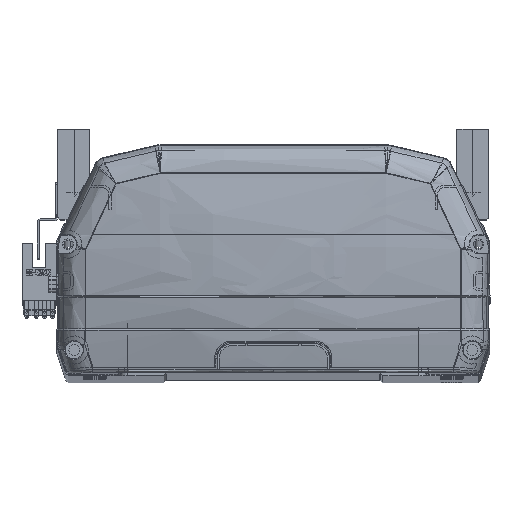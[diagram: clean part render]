
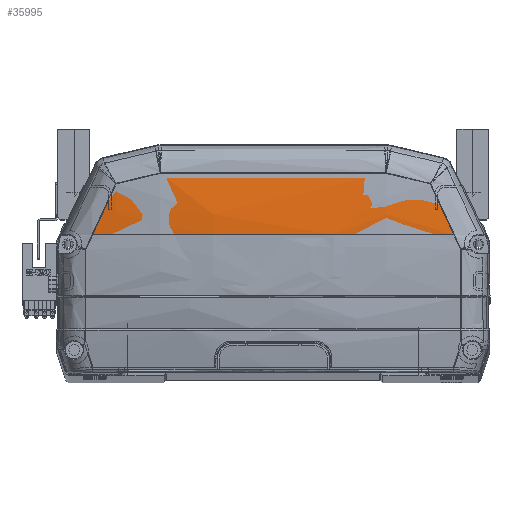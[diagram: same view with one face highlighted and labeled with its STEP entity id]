
A CAD part, top view. The second image highlights one B-rep face of the part: STEP entity #35995.
In plain terms, the highlighted toroidal (fillet/blend) face has major radius 312.5 mm and minor radius 572.4 mm.
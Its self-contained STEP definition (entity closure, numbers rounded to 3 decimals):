
#574 = CARTESIAN_POINT ( 'NONE',  ( -44.331, 79.443, -2.97 ) ) ;
#784 = EDGE_CURVE ( 'NONE', #12929, #7118, #37012, .T. ) ;
#1103 = VERTEX_POINT ( 'NONE', #35573 ) ;
#1654 = EDGE_LOOP ( 'NONE', ( #38720, #20469, #31573, #13147, #24003, #30312 ) ) ;
#5934 = CARTESIAN_POINT ( 'NONE',  ( 44.331, 79.443, -2.97 ) ) ;
#6027 = CARTESIAN_POINT ( 'NONE',  ( -61.718, 75.278, -4.232 ) ) ;
#6447 = FACE_OUTER_BOUND ( 'NONE', #1654, .T. ) ;
#7056 = EDGE_CURVE ( 'NONE', #1103, #14195, #20808, .T. ) ;
#7118 = VERTEX_POINT ( 'NONE', #5934 ) ;
#8437 = EDGE_CURVE ( 'NONE', #1103, #20851, #43055, .T. ) ;
#9397 = EDGE_CURVE ( 'NONE', #20851, #12929, #42483, .T. ) ;
#10506 = CARTESIAN_POINT ( 'NONE',  ( -14.788, 79.361, -1.235 ) ) ;
#11692 = B_SPLINE_CURVE_WITH_KNOTS ( 'NONE', 3,
 ( #15659, #19439, #42289, #29141 ),
 .UNSPECIFIED., .F., .F.,
 ( 4, 4 ),
 ( 0., 0.022 ),
 .UNSPECIFIED. ) ;
#12156 = CARTESIAN_POINT ( 'NONE',  ( -63.264, 71.911, -4.135 ) ) ;
#12830 = CARTESIAN_POINT ( 'NONE',  ( 61.718, 75.278, -4.232 ) ) ;
#12929 = VERTEX_POINT ( 'NONE', #574 ) ;
#13147 = ORIENTED_EDGE ( 'NONE', *, *, #30550, .F. ) ;
#14195 = VERTEX_POINT ( 'NONE', #25730 ) ;
#14794 = TOROIDAL_SURFACE ( 'NONE', #39555, -312.5, 572.4 ) ;
#15659 = CARTESIAN_POINT ( 'NONE',  ( 61.718, 75.278, -4.232 ) ) ;
#15672 = CARTESIAN_POINT ( 'NONE',  ( -61.718, 75.278, -4.232 ) ) ;
#15683 = EDGE_CURVE ( 'NONE', #30308, #14195, #11692, .T. ) ;
#16335 = CARTESIAN_POINT ( 'NONE',  ( 55.929, 76.66, -3.711 ) ) ;
#17254 = CARTESIAN_POINT ( 'NONE',  ( -50.132, 78.049, -3.29 ) ) ;
#18509 = DIRECTION ( 'NONE',  ( 0., 0., -1. ) ) ;
#18762 = DIRECTION ( 'NONE',  ( 0., 1., 0. ) ) ;
#19439 = CARTESIAN_POINT ( 'NONE',  ( 64.811, 68.545, -4.037 ) ) ;
#20469 = ORIENTED_EDGE ( 'NONE', *, *, #7056, .T. ) ;
#20808 = CIRCLE ( 'NONE', #23800, 572.4 ) ;
#20851 = VERTEX_POINT ( 'NONE', #25113 ) ;
#22042 = CARTESIAN_POINT ( 'NONE',  ( -67.917, 61.816, -4.208 ) ) ;
#23800 = AXIS2_PLACEMENT_3D ( 'NONE', #38023, #18762, #35117 ) ;
#24003 = ORIENTED_EDGE ( 'NONE', *, *, #784, .F. ) ;
#24016 = CARTESIAN_POINT ( 'NONE',  ( 44.331, 79.443, -2.97 ) ) ;
#25113 = CARTESIAN_POINT ( 'NONE',  ( -61.718, 75.278, -4.232 ) ) ;
#25365 = CARTESIAN_POINT ( 'NONE',  ( -64.813, 68.545, -4.11 ) ) ;
#25730 = CARTESIAN_POINT ( 'NONE',  ( 71.027, 55.096, -4.524 ) ) ;
#26490 = CARTESIAN_POINT ( 'NONE',  ( 50.132, 78.049, -3.29 ) ) ;
#29141 = CARTESIAN_POINT ( 'NONE',  ( 71.027, 55.096, -4.524 ) ) ;
#30308 = VERTEX_POINT ( 'NONE', #41224 ) ;
#30312 = ORIENTED_EDGE ( 'NONE', *, *, #9397, .F. ) ;
#30407 = CARTESIAN_POINT ( 'NONE',  ( -29.579, 79.39, -1.814 ) ) ;
#30550 = EDGE_CURVE ( 'NONE', #7118, #30308, #37479, .T. ) ;
#31407 = DIRECTION ( 'NONE',  ( 1., 0., 0. ) ) ;
#31573 = ORIENTED_EDGE ( 'NONE', *, *, #15683, .F. ) ;
#31836 = CARTESIAN_POINT ( 'NONE',  ( 0., 55.096, -260. ) ) ;
#32186 = CARTESIAN_POINT ( 'NONE',  ( -71.027, 55.096, -4.524 ) ) ;
#33733 = CARTESIAN_POINT ( 'NONE',  ( 14.805, 79.361, -1.235 ) ) ;
#35117 = DIRECTION ( 'NONE',  ( 0., 0., 1. ) ) ;
#35361 = CARTESIAN_POINT ( 'NONE',  ( -69.472, 58.454, -4.329 ) ) ;
#35573 = CARTESIAN_POINT ( 'NONE',  ( -71.027, 55.096, -4.524 ) ) ;
#35995 = ADVANCED_FACE ( 'NONE', ( #6447 ), #14794, .T. ) ;
#37012 = B_SPLINE_CURVE_WITH_KNOTS ( 'NONE', 3,
 ( #39930, #30407, #10506, #33733, #40910, #24016 ),
 .UNSPECIFIED., .F., .F.,
 ( 4, 2, 4 ),
 ( 0., 0.044, 0.089 ),
 .UNSPECIFIED. ) ;
#37479 = B_SPLINE_CURVE_WITH_KNOTS ( 'NONE', 3,
 ( #42538, #26490, #16335, #12830 ),
 .UNSPECIFIED., .F., .F.,
 ( 4, 4 ),
 ( 0., 0.018 ),
 .UNSPECIFIED. ) ;
#38023 = CARTESIAN_POINT ( 'NONE',  ( 0., 55.096, -572.5 ) ) ;
#38720 = ORIENTED_EDGE ( 'NONE', *, *, #8437, .F. ) ;
#39385 = CARTESIAN_POINT ( 'NONE',  ( -44.331, 79.443, -2.97 ) ) ;
#39555 = AXIS2_PLACEMENT_3D ( 'NONE', #31836, #31407, #18509 ) ;
#39930 = CARTESIAN_POINT ( 'NONE',  ( -44.331, 79.443, -2.97 ) ) ;
#40910 = CARTESIAN_POINT ( 'NONE',  ( 29.579, 79.389, -1.814 ) ) ;
#41224 = CARTESIAN_POINT ( 'NONE',  ( 61.718, 75.278, -4.232 ) ) ;
#42289 = CARTESIAN_POINT ( 'NONE',  ( 67.917, 61.809, -4.135 ) ) ;
#42483 = B_SPLINE_CURVE_WITH_KNOTS ( 'NONE', 3,
 ( #6027, #42738, #17254, #39385 ),
 .UNSPECIFIED., .F., .F.,
 ( 4, 4 ),
 ( 0., 0.018 ),
 .UNSPECIFIED. ) ;
#42538 = CARTESIAN_POINT ( 'NONE',  ( 44.331, 79.443, -2.97 ) ) ;
#42738 = CARTESIAN_POINT ( 'NONE',  ( -55.929, 76.661, -3.711 ) ) ;
#43055 = B_SPLINE_CURVE_WITH_KNOTS ( 'NONE', 3,
 ( #32186, #35361, #22042, #25365, #12156, #15672 ),
 .UNSPECIFIED., .F., .F.,
 ( 4, 2, 4 ),
 ( 0.006, 0.017, 0.029 ),
 .UNSPECIFIED. ) ;
